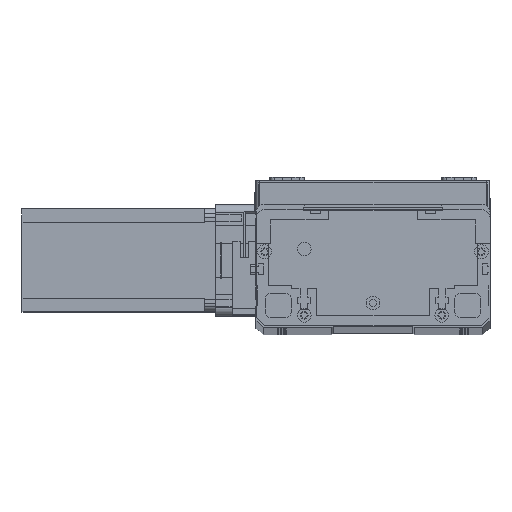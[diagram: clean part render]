
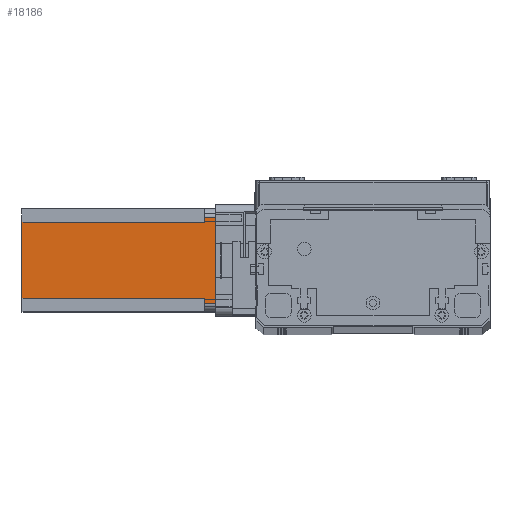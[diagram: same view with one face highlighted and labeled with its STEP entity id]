
A CAD part, top view. The second image highlights one B-rep face of the part: STEP entity #18186.
In plain terms, the highlighted planar face has unit normal (0, 0, 1) as drawn and (0, -1, 0) by its records, which use the part's own axes.
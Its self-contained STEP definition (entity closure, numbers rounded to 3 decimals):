
#9 = VERTEX_POINT ( 'NONE', #15806 ) ;
#83 = CARTESIAN_POINT ( 'NONE',  ( 55., 0., 0. ) ) ;
#499 = VECTOR ( 'NONE', #23051, 1000. ) ;
#557 = EDGE_CURVE ( 'NONE', #1950, #26590, #4144, .T. ) ;
#936 = EDGE_CURVE ( 'NONE', #1950, #2902, #16196, .T. ) ;
#1027 = AXIS2_PLACEMENT_3D ( 'NONE', #21231, #25320, #13039 ) ;
#1357 = DIRECTION ( 'NONE',  ( 0., 0., 1. ) ) ;
#1450 = CARTESIAN_POINT ( 'NONE',  ( 55., 0., -112.5 ) ) ;
#1579 = VERTEX_POINT ( 'NONE', #18369 ) ;
#1660 = ORIENTED_EDGE ( 'NONE', *, *, #936, .F. ) ;
#1939 = CARTESIAN_POINT ( 'NONE',  ( 5., 0., -112.5 ) ) ;
#1950 = VERTEX_POINT ( 'NONE', #14785 ) ;
#2790 = VECTOR ( 'NONE', #25306, 1000. ) ;
#2902 = VERTEX_POINT ( 'NONE', #19798 ) ;
#2973 = CARTESIAN_POINT ( 'NONE',  ( 8., 0., -6.5 ) ) ;
#3890 = VERTEX_POINT ( 'NONE', #17163 ) ;
#4072 = EDGE_LOOP ( 'NONE', ( #15134, #23247, #10735, #8751, #25867, #1660, #6530, #4904 ) ) ;
#4144 = LINE ( 'NONE', #24791, #2790 ) ;
#4351 = PLANE ( 'NONE',  #1027 ) ;
#4456 = EDGE_CURVE ( 'NONE', #1579, #19216, #6611, .T. ) ;
#4599 = LINE ( 'NONE', #1450, #9737 ) ;
#4904 = ORIENTED_EDGE ( 'NONE', *, *, #18017, .F. ) ;
#5253 = VECTOR ( 'NONE', #9629, 1000. ) ;
#6313 = LINE ( 'NONE', #1939, #499 ) ;
#6530 = ORIENTED_EDGE ( 'NONE', *, *, #557, .T. ) ;
#6611 = LINE ( 'NONE', #24763, #18534 ) ;
#7436 = LINE ( 'NONE', #8104, #18011 ) ;
#8104 = CARTESIAN_POINT ( 'NONE',  ( 52., 0., -112.5 ) ) ;
#8734 = VECTOR ( 'NONE', #24145, 1000. ) ;
#8751 = ORIENTED_EDGE ( 'NONE', *, *, #12939, .T. ) ;
#9629 = DIRECTION ( 'NONE',  ( -1., 0., 0. ) ) ;
#9654 = VERTEX_POINT ( 'NONE', #11102 ) ;
#9737 = VECTOR ( 'NONE', #1357, 1000. ) ;
#10735 = ORIENTED_EDGE ( 'NONE', *, *, #4456, .F. ) ;
#11102 = CARTESIAN_POINT ( 'NONE',  ( 5., 0., -6.5 ) ) ;
#12691 = EDGE_CURVE ( 'NONE', #3890, #9, #14380, .T. ) ;
#12822 = EDGE_CURVE ( 'NONE', #9, #19216, #4599, .T. ) ;
#12939 = EDGE_CURVE ( 'NONE', #1579, #9654, #6313, .T. ) ;
#13039 = DIRECTION ( 'NONE',  ( 0., 0., -1. ) ) ;
#13259 = EDGE_CURVE ( 'NONE', #2902, #9654, #17270, .T. ) ;
#14380 = LINE ( 'NONE', #22088, #8734 ) ;
#14785 = CARTESIAN_POINT ( 'NONE',  ( 8., 0., -112.5 ) ) ;
#14868 = VECTOR ( 'NONE', #19862, 1000. ) ;
#15134 = ORIENTED_EDGE ( 'NONE', *, *, #12691, .T. ) ;
#15806 = CARTESIAN_POINT ( 'NONE',  ( 55., 0., -6.5 ) ) ;
#16196 = LINE ( 'NONE', #24228, #14868 ) ;
#17163 = CARTESIAN_POINT ( 'NONE',  ( 52., 0., -6.5 ) ) ;
#17270 = LINE ( 'NONE', #2973, #5253 ) ;
#18011 = VECTOR ( 'NONE', #18571, 1000. ) ;
#18017 = EDGE_CURVE ( 'NONE', #3890, #26590, #7436, .T. ) ;
#18186 = ADVANCED_FACE ( 'NONE', ( #18320 ), #4351, .T. ) ;
#18320 = FACE_OUTER_BOUND ( 'NONE', #4072, .T. ) ;
#18369 = CARTESIAN_POINT ( 'NONE',  ( 5., 0., 0. ) ) ;
#18534 = VECTOR ( 'NONE', #24675, 1000. ) ;
#18571 = DIRECTION ( 'NONE',  ( 0., 0., -1. ) ) ;
#19216 = VERTEX_POINT ( 'NONE', #83 ) ;
#19798 = CARTESIAN_POINT ( 'NONE',  ( 8., 0., -6.5 ) ) ;
#19862 = DIRECTION ( 'NONE',  ( 0., 0., 1. ) ) ;
#21231 = CARTESIAN_POINT ( 'NONE',  ( 0., 0., -112.5 ) ) ;
#22088 = CARTESIAN_POINT ( 'NONE',  ( 52., 0., -6.5 ) ) ;
#23051 = DIRECTION ( 'NONE',  ( 0., 0., -1. ) ) ;
#23247 = ORIENTED_EDGE ( 'NONE', *, *, #12822, .T. ) ;
#24145 = DIRECTION ( 'NONE',  ( 1., 0., 0. ) ) ;
#24228 = CARTESIAN_POINT ( 'NONE',  ( 8., 0., -112.5 ) ) ;
#24675 = DIRECTION ( 'NONE',  ( 1., 0., 0. ) ) ;
#24763 = CARTESIAN_POINT ( 'NONE',  ( 0., 0., 0. ) ) ;
#24791 = CARTESIAN_POINT ( 'NONE',  ( 0., 0., -112.5 ) ) ;
#25306 = DIRECTION ( 'NONE',  ( 1., 0., 0. ) ) ;
#25320 = DIRECTION ( 'NONE',  ( 0., -1., 0. ) ) ;
#25867 = ORIENTED_EDGE ( 'NONE', *, *, #13259, .F. ) ;
#26590 = VERTEX_POINT ( 'NONE', #26750 ) ;
#26750 = CARTESIAN_POINT ( 'NONE',  ( 52., 0., -112.5 ) ) ;
